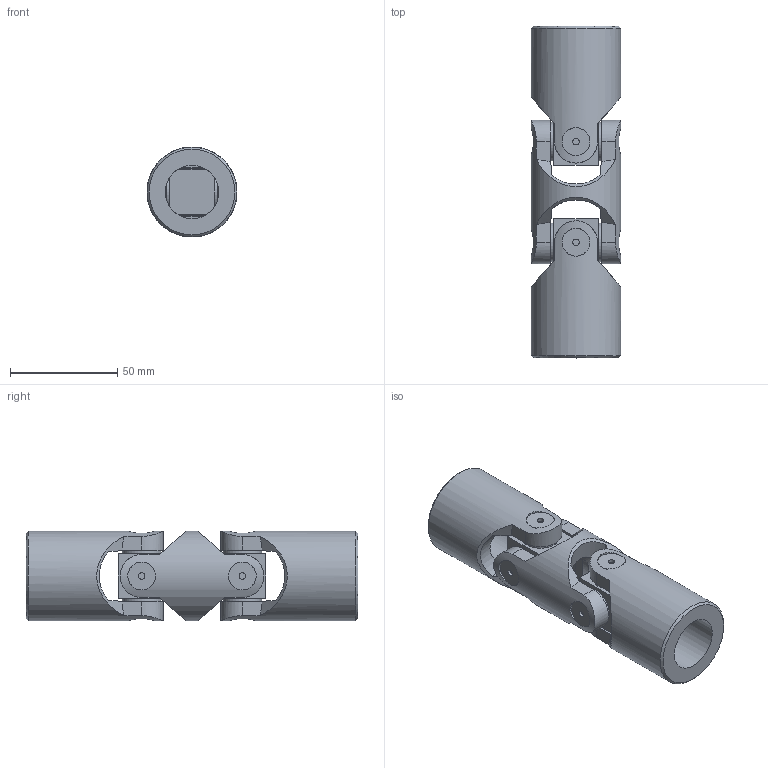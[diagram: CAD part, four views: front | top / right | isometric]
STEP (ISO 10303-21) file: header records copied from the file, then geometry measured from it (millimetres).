
FILE_DESCRIPTION(/* description */ (''),/* implementation_level */ '2;1');
FILE_NAME(/* name */ '\\SRV2016\Societa\Stefano\Disegni 3D\00Catalogo 3D\02Doppi GD-GBD\SGBD2500.stp',/* time_stamp */ '2021-11-23T13:34:32+01:00',/* author */ ('acquisti'),/* organization */ (''),/* preprocessor_version */ 'ST-DEVELOPER v15.6',/* originating_system */ 'Autodesk Inventor 2015',/* authorisation */ '');
FILE_SCHEMA (('AUTOMOTIVE_DESIGN { 1 0 10303 214 3 1 1 }'));
Length unit declared in the file: millimetre
Products named in the file (4): 3G MOD; 3G SFE; 5GB MOS; Ø42_5GBD-00_SGBD2500
Assembly tree (5 placements, depth 2):
  Ø42_5GBD-00_SGBD2500
    3G MOD
    3G SFE  x2
    5GB MOS  x2
Bounding box: 42 x 155 x 42 mm (x, y, z)
Volume: 133000.2 mm3; surface area: 40293.7 mm2
Topology: 5 solids, 5 shells, 161 faces, 379 edges, 248 vertices
Faces by surface type: plane 74, cylinder 63, cone 20, torus 4
Full cylindrical faces by diameter (mm): 3 x8, 18 x8, 22 x2, 25 x2, 42 x3
Entity records: 3773 total; most frequent: CARTESIAN_POINT 1320, ORIENTED_EDGE 488, DIRECTION 466, EDGE_CURVE 244, AXIS2_PLACEMENT_3D 209, VERTEX_POINT 172, EDGE_LOOP 150, FACE_OUTER_BOUND 112
